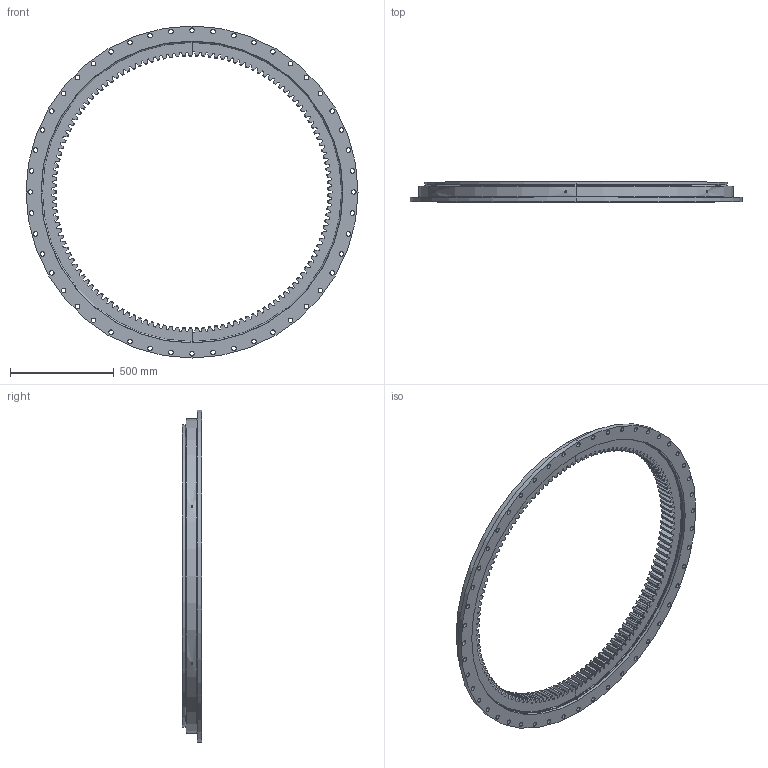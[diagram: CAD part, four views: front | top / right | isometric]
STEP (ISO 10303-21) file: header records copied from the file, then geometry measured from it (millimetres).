
FILE_DESCRIPTION (( 'STEP AP214' ), '1' );
FILE_NAME ('B1130-1-1600AC.STEP', '2022-11-24T06:38:53', ( '' ), ( '' ), 'SwSTEP 2.0', 'SolidWorks 2020', '' );
FILE_SCHEMA (( 'AUTOMOTIVE_DESIGN' ));
Length unit declared in the file: millimetre
Products named in the file (1): B1130-1-1600AC
Bounding box: 1600 x 95 x 1600 mm (x, y, z)
Volume: 34823231.7 mm3; surface area: 3477695.4 mm2
Topology: 4 solids, 4 shells, 1401 faces, 3925 edges, 2502 vertices
Faces by surface type: plane 558, cone 468, cylinder 373, torus 2
Entity records: 45986 total; most frequent: CARTESIAN_POINT 11859, ORIENTED_EDGE 7658, DIRECTION 6401, EDGE_CURVE 3829, AXIS2_PLACEMENT_3D 2514, VERTEX_POINT 2502, EDGE_LOOP 1571, FACE_OUTER_BOUND 1401
